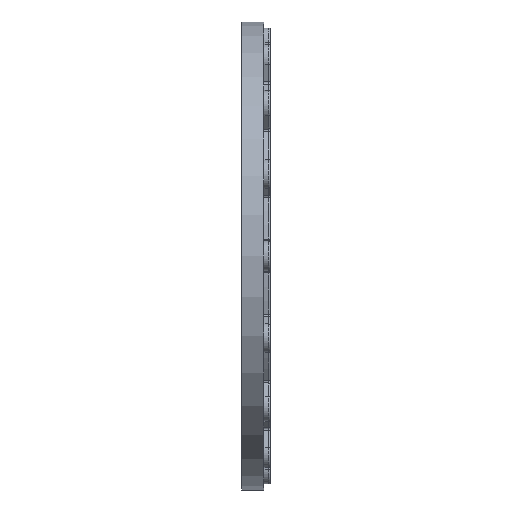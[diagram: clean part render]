
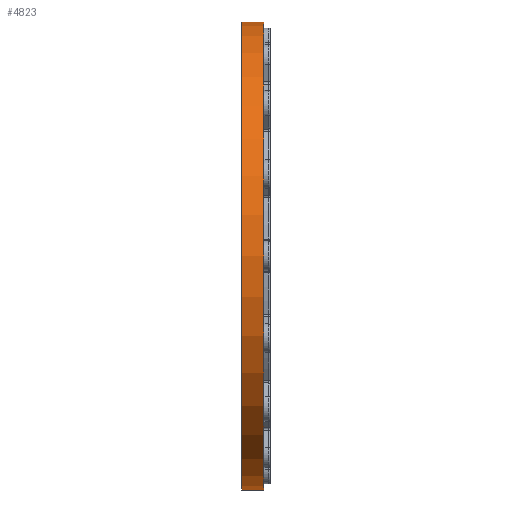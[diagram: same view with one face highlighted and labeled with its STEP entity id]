
A CAD part, left-side view. The second image highlights one B-rep face of the part: STEP entity #4823.
In plain terms, the highlighted cylindrical face has radius 252.5 mm (diameter 505 mm), a full revolution.
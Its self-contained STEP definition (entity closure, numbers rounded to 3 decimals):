
#926=ORIENTED_EDGE('',*,*,#2350,.F.);
#927=ORIENTED_EDGE('',*,*,#2251,.T.);
#2251=EDGE_CURVE('',#2978,#2978,#3456,.T.);
#2350=EDGE_CURVE('',#3077,#3077,#3523,.T.);
#2978=VERTEX_POINT('',#7779);
#3077=VERTEX_POINT('',#7979);
#3456=CIRCLE('',#5199,252.5);
#3523=CIRCLE('',#5268,252.5);
#3930=EDGE_LOOP('',(#926));
#3931=EDGE_LOOP('',(#927));
#4321=FACE_BOUND('',#3930,.T.);
#4322=FACE_BOUND('',#3931,.T.);
#4634=CYLINDRICAL_SURFACE('',#5267,252.5);
#4823=ADVANCED_FACE('',(#4321,#4322),#4634,.T.);
#5199=AXIS2_PLACEMENT_3D('',#7778,#6051,#6052);
#5267=AXIS2_PLACEMENT_3D('',#7977,#6219,#6220);
#5268=AXIS2_PLACEMENT_3D('',#7978,#6221,#6222);
#6051=DIRECTION('',(0.,1.,0.));
#6052=DIRECTION('',(1.,0.,0.));
#6219=DIRECTION('',(0.,-1.,0.));
#6220=DIRECTION('',(0.,0.,-1.));
#6221=DIRECTION('',(0.,1.,0.));
#6222=DIRECTION('',(1.,0.,0.));
#7778=CARTESIAN_POINT('',(0.,0.,0.));
#7779=CARTESIAN_POINT('',(252.5,0.,0.));
#7977=CARTESIAN_POINT('',(0.,24.,0.));
#7978=CARTESIAN_POINT('',(0.,24.,0.));
#7979=CARTESIAN_POINT('',(252.5,24.,0.));
